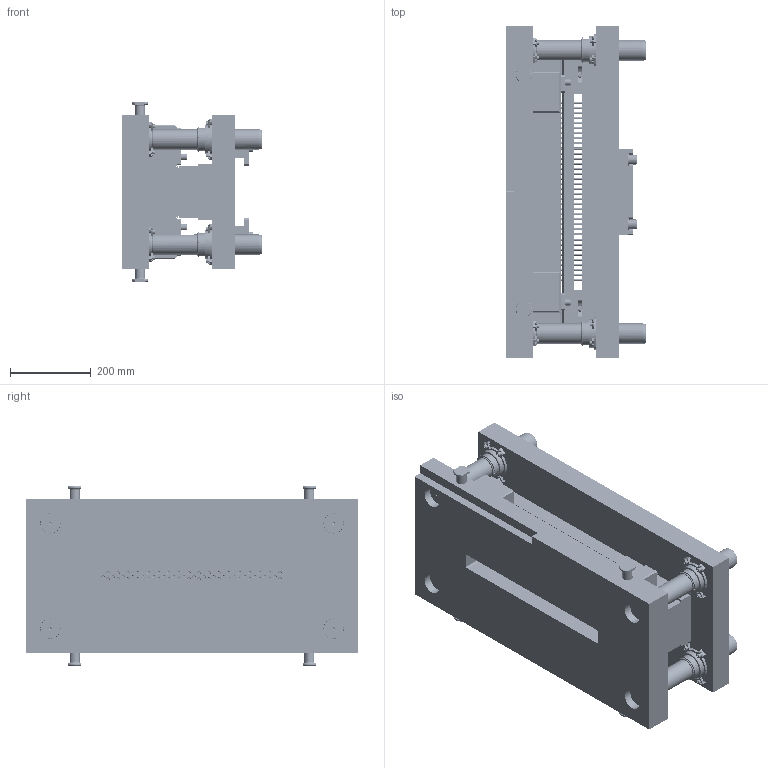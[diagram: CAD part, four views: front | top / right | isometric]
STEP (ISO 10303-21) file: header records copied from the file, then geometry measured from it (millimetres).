
FILE_DESCRIPTION(('STEP AP203'), '1');
FILE_NAME('Øòàìï âûðóáêè 450', '', ('UNSPECIFIED'), ('UNSPECIFIED'), 'C3D Converter', 'C3D Toolkit', '');
FILE_SCHEMA(('CONFIG_CONTROL_DESIGN'));
Length unit declared in the file: millimetre
Products named in the file (57): ШПО2-450.00.000 СБ; ШПО2-450.00.301; ШПО2-450.00.305; ШПО2-450.00.303; ШПО2-450.00.308; ШПО2-450.00.304; УЗТСО.ШГР.00.311; ШПО2-450.00.311; ШПО2-450.00.311-01; ШПО2-450.00.309; ШПО2-450.00.310; 1; 2; 3; 4; 5; 6; 7; 8; 9; ШПО2-450.00.302; ШПО2-450.00.307; ШПО2-450.00.306; ШВ0,7-450.00.318
Assembly tree (217 placements, depth 3):
  ШПО2-450.00.000 СБ
    ШПО2-450.00.301
    ШПО2-450.00.305
    ШПО2-450.00.303
    ШПО2-450.00.308  x2
    ШПО2-450.00.304
    УЗТСО.ШГР.00.311  x4
    (unnamed)  x2
    (unnamed)
    (unnamed)
    ШПО2-450.00.311  x2
    ШПО2-450.00.311-01
    ШПО2-450.00.311-01
    (unnamed)  x12
    (unnamed)  x18
    (unnamed)  x4
    (unnamed)  x8
    (unnamed)  x4
    ШПО2-450.00.309  x2
    (unnamed)  x4
    ШПО2-450.00.310  x4
    (unnamed)  x8
    (unnamed)  x8
    (unnamed)  x8
    (unnamed)  x4
    (unnamed)  x4
      1
      2
      3
      4
      5
      6
      7
      8
      9
    ШПО2-450.00.302
    (unnamed)  x4
      1
      2
      3
      4
      5
      6
      7
      8
      9
    (unnamed)  x4
    ШПО2-450.00.307
    ШПО2-450.00.306
    (unnamed)
    (unnamed)
    (unnamed)  x10
    (unnamed)  x54
    ШВ0,7-450.00.318  x2
    (unnamed)  x4
    (unnamed)  x4
    (unnamed)  x6
Bounding box: 346 x 820 x 444 mm (x, y, z)
Volume: 53834336.1 mm3; surface area: 4402050.8 mm2
Topology: 263 solids, 263 shells, 4256 faces, 9420 edges, 5948 vertices
Faces by surface type: plane 2095, cylinder 1285, cone 636, torus 240
Full cylindrical faces by diameter (mm): 4.917 x32, 5.009 x54, 5.01 x54, 5.07 x54, 6 x86, 6.647 x8, 8 x120, 8.376 x8, 9 x4, 10 x112, 10.106 x12, 10.5 x8, 11 x54, 11.63 x4, 12 x28, 13.835 x28, 14 x44, 16 x44, 17 x4, 18 x50, 20 x18, 22 x12, 24 x24, 25 x8, 28 x26, 30 x4, 45 x4, 50 x16, 58 x12, 63 x8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
Entity records: 62632 total; most frequent: CARTESIAN_POINT 16858, DIRECTION 8211, ORIENTED_EDGE 5568, AXIS2_PLACEMENT_3D 3687, EDGE_LOOP 3593, EDGE_CURVE 2784, VERTEX_POINT 2365, FACE_OUTER_BOUND 1928
